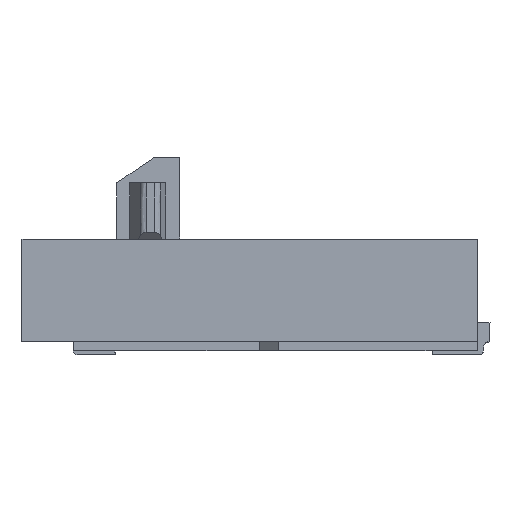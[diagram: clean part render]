
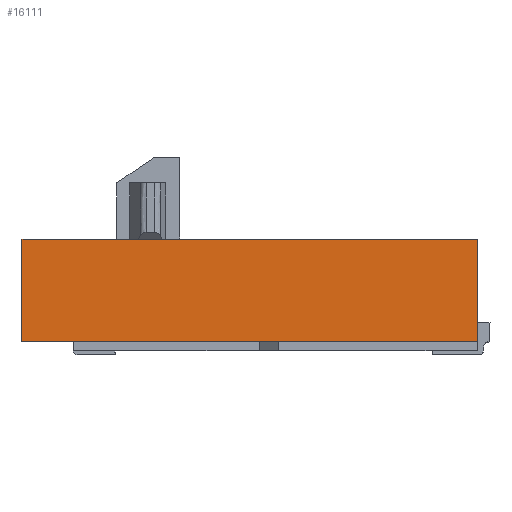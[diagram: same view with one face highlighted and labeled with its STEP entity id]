
A CAD part, front view. The second image highlights one B-rep face of the part: STEP entity #16111.
In plain terms, the highlighted planar face has unit normal (0, -1, 0).
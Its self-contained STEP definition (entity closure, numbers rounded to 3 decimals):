
#1498 = VERTEX_POINT ( 'NONE', #17839 ) ;
#1999 = VECTOR ( 'NONE', #6297, 1000. ) ;
#2247 = FACE_OUTER_BOUND ( 'NONE', #4874, .T. ) ;
#2685 = EDGE_CURVE ( 'NONE', #8130, #1498, #4463, .T. ) ;
#4262 = ORIENTED_EDGE ( 'NONE', *, *, #21860, .F. ) ;
#4463 = LINE ( 'NONE', #15135, #1999 ) ;
#4874 = EDGE_LOOP ( 'NONE', ( #15296, #4262, #12361, #17450 ) ) ;
#5038 = CARTESIAN_POINT ( 'NONE',  ( 1.675, -0.95, 0.07 ) ) ;
#5774 = CARTESIAN_POINT ( 'NONE',  ( 1.675, -0.95, 0.47 ) ) ;
#6297 = DIRECTION ( 'NONE',  ( -1., 0., 0. ) ) ;
#7099 = DIRECTION ( 'NONE',  ( 1., 0., 0. ) ) ;
#7587 = LINE ( 'NONE', #5774, #22517 ) ;
#8130 = VERTEX_POINT ( 'NONE', #5038 ) ;
#8189 = VERTEX_POINT ( 'NONE', #14738 ) ;
#8485 = EDGE_CURVE ( 'NONE', #22691, #8189, #12662, .T. ) ;
#9229 = PLANE ( 'NONE',  #12648 ) ;
#11617 = EDGE_CURVE ( 'NONE', #8189, #8130, #7587, .T. ) ;
#11761 = CARTESIAN_POINT ( 'NONE',  ( -1.875, -0.95, 0.87 ) ) ;
#12361 = ORIENTED_EDGE ( 'NONE', *, *, #2685, .F. ) ;
#12648 = AXIS2_PLACEMENT_3D ( 'NONE', #15819, #16243, #7099 ) ;
#12662 = LINE ( 'NONE', #14378, #16220 ) ;
#12869 = DIRECTION ( 'NONE',  ( 0., 0., -1. ) ) ;
#14378 = CARTESIAN_POINT ( 'NONE',  ( -0.1, -0.95, 0.87 ) ) ;
#14738 = CARTESIAN_POINT ( 'NONE',  ( 1.675, -0.95, 0.87 ) ) ;
#15135 = CARTESIAN_POINT ( 'NONE',  ( -0.1, -0.95, 0.07 ) ) ;
#15296 = ORIENTED_EDGE ( 'NONE', *, *, #8485, .F. ) ;
#15819 = CARTESIAN_POINT ( 'NONE',  ( -1.875, -0.95, 0.87 ) ) ;
#16111 = ADVANCED_FACE ( 'NONE', ( #2247 ), #9229, .F. ) ;
#16124 = DIRECTION ( 'NONE',  ( 0., 0., 1. ) ) ;
#16219 = DIRECTION ( 'NONE',  ( 1., 0., 0. ) ) ;
#16220 = VECTOR ( 'NONE', #16219, 1000. ) ;
#16243 = DIRECTION ( 'NONE',  ( 0., 1., 0. ) ) ;
#17450 = ORIENTED_EDGE ( 'NONE', *, *, #11617, .F. ) ;
#17839 = CARTESIAN_POINT ( 'NONE',  ( -1.875, -0.95, 0.07 ) ) ;
#18055 = LINE ( 'NONE', #19665, #18265 ) ;
#18265 = VECTOR ( 'NONE', #16124, 1000. ) ;
#19665 = CARTESIAN_POINT ( 'NONE',  ( -1.875, -0.95, 0.47 ) ) ;
#21860 = EDGE_CURVE ( 'NONE', #1498, #22691, #18055, .T. ) ;
#22517 = VECTOR ( 'NONE', #12869, 1000. ) ;
#22691 = VERTEX_POINT ( 'NONE', #11761 ) ;
